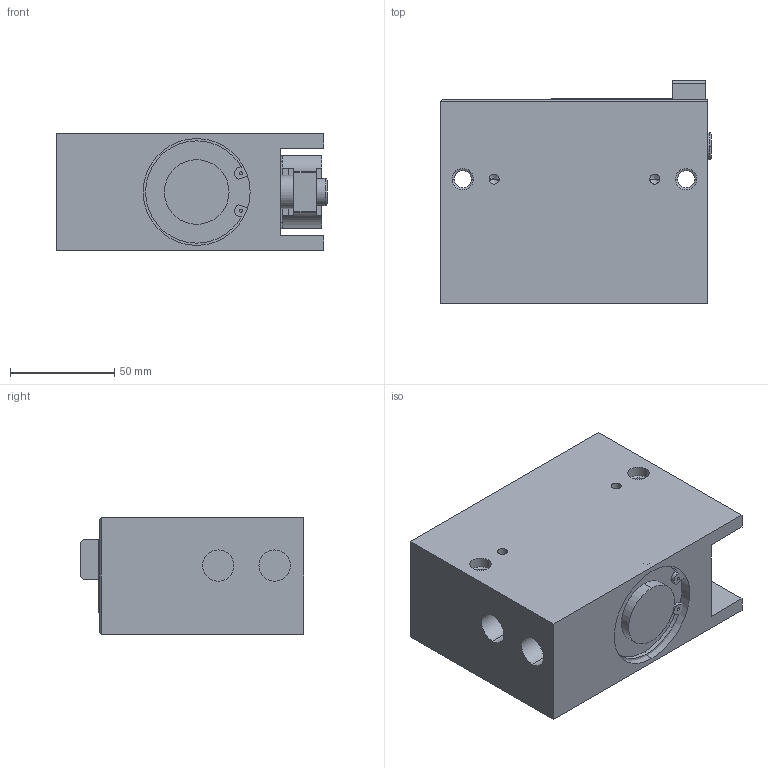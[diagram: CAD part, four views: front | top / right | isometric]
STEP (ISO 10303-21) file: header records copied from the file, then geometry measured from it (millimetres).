
FILE_DESCRIPTION (( 'STEP AP203' ), '1' );
FILE_NAME ('DBS-255-09-DW-S19.STEP', '2019-02-21T10:08:40', ( '' ), ( '' ), 'SwSTEP 2.0', 'SolidWorks 2017', '' );
FILE_SCHEMA (( 'CONFIG_CONTROL_DESIGN' ));
Length unit declared in the file: millimetre
Products named in the file (1): DBS-255-09-DW-S19
Bounding box: 129.5 x 107.2 x 56 mm (x, y, z)
Volume: 576731.7 mm3; surface area: 98982.3 mm2
Topology: 2 solids, 2 shells, 252 faces, 638 edges, 400 vertices
Faces by surface type: plane 133, cylinder 89, cone 24, torus 6
Entity records: 7541 total; most frequent: DIRECTION 1332, CARTESIAN_POINT 1275, ORIENTED_EDGE 1244, EDGE_CURVE 622, AXIS2_PLACEMENT_3D 457, VECTOR 418, LINE 418, VERTEX_POINT 400
